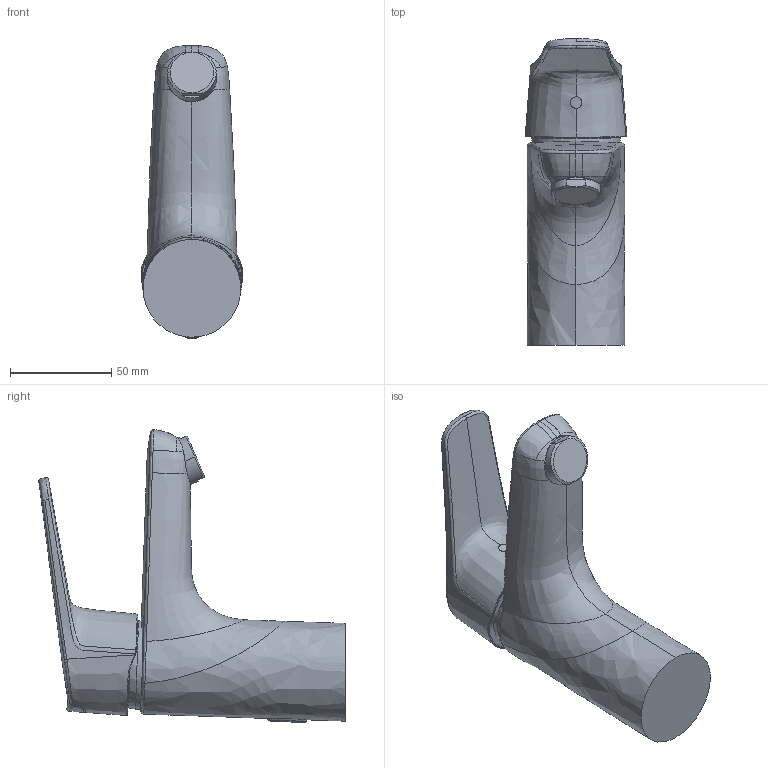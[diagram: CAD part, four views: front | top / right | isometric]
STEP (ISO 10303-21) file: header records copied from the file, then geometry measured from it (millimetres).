
FILE_DESCRIPTION (( 'STEP AP203' ), '1' );
FILE_NAME ('1810FGG-33(2023).STEP', '2023-05-24T07:02:34', ( '' ), ( '' ), 'SwSTEP 2.0', 'SolidWorks 2016', '' );
FILE_SCHEMA (( 'CONFIG_CONTROL_DESIGN' ));
Length unit declared in the file: millimetre
Products named in the file (1): 1810FGG-33(2023)
Bounding box: 49.97 x 151.06 x 144.53 mm (x, y, z)
Volume: 347727.6 mm3; surface area: 40250.5 mm2
Topology: 1 solids, 1 shells, 128 faces, 343 edges, 221 vertices
Faces by surface type: bspline 87, cylinder 18, plane 14, cone 7, sphere 2
Entity records: 34232 total; most frequent: CARTESIAN_POINT 31831, ORIENTED_EDGE 686, EDGE_CURVE 343, B_SPLINE_CURVE_WITH_KNOTS 259, VERTEX_POINT 221, DIRECTION 174, EDGE_LOOP 132, FACE_OUTER_BOUND 128
